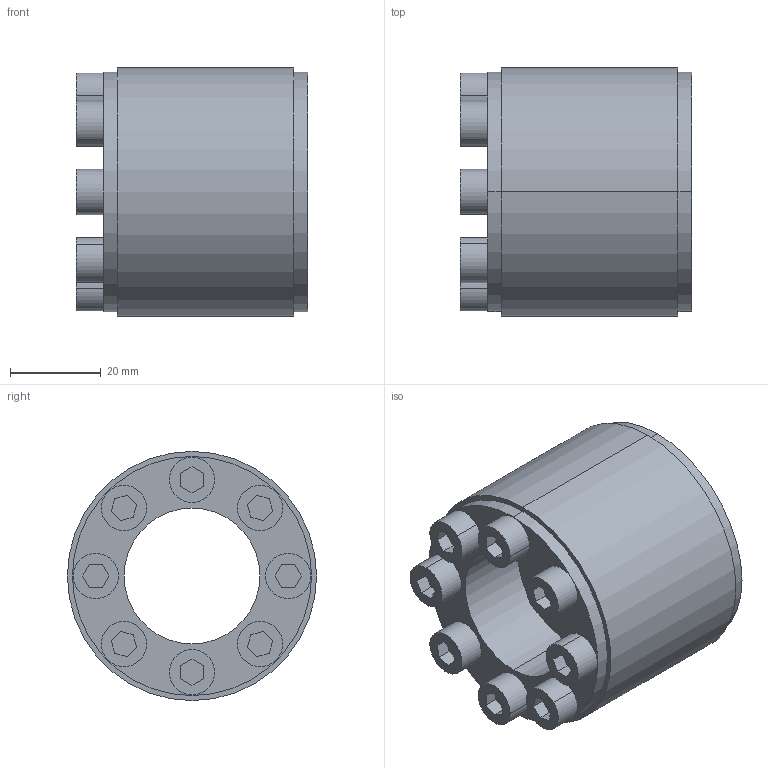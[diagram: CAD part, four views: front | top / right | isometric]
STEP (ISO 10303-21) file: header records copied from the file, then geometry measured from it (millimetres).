
FILE_DESCRIPTION (( 'STEP AP203' ), '1' );
FILE_NAME ('SF-30.STEP', '2009-09-29T17:17:53', ( 'USER' ), ( 'HOME' ), 'SwSTEP 2.0', 'SolidWorks 2007', '' );
FILE_SCHEMA (( 'CONFIG_CONTROL_DESIGN' ));
Length unit declared in the file: millimetre
Products named in the file (1): SF-30
Bounding box: 51 x 55 x 55 mm (x, y, z)
Volume: 69220.6 mm3; surface area: 33092.3 mm2
Topology: 9 solids, 9 shells, 184 faces, 432 edges, 288 vertices
Faces by surface type: cylinder 96, plane 88
Entity records: 5509 total; most frequent: DIRECTION 994, CARTESIAN_POINT 905, ORIENTED_EDGE 864, EDGE_CURVE 432, AXIS2_PLACEMENT_3D 377, VERTEX_POINT 288, EDGE_LOOP 256, LINE 240
